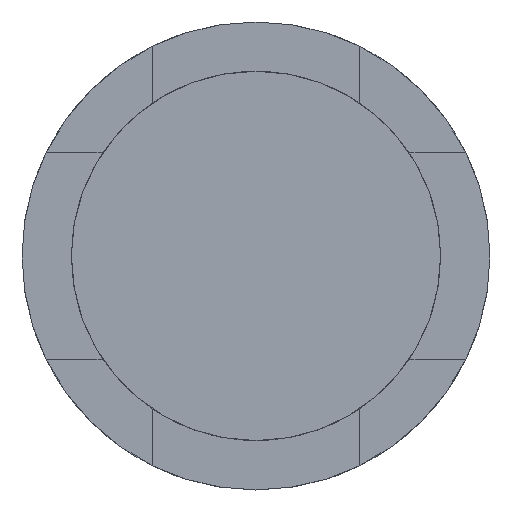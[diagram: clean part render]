
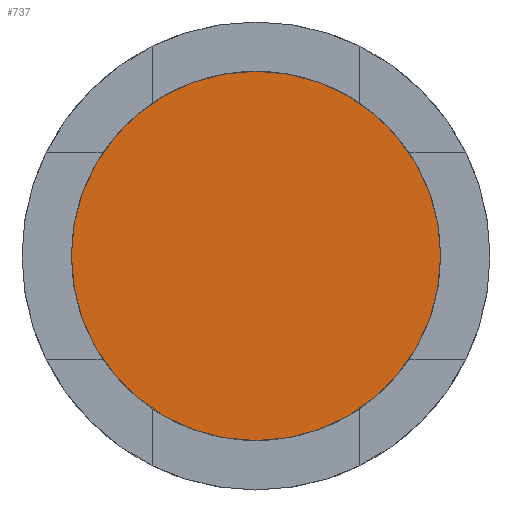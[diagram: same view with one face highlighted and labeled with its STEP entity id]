
A CAD part, top view. The second image highlights one B-rep face of the part: STEP entity #737.
In plain terms, the highlighted planar face has unit normal (0, 0, 1).
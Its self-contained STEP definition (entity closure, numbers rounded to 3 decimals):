
#18 = ORIENTED_EDGE ( 'NONE', *, *, #74, .T. ) ;
#74 = EDGE_CURVE ( 'NONE', #94, #429, #250, .T. ) ;
#81 = FACE_OUTER_BOUND ( 'NONE', #772, .T. ) ;
#94 = VERTEX_POINT ( 'NONE', #558 ) ;
#185 = DIRECTION ( 'NONE',  ( 1., 0., 0. ) ) ;
#191 = DIRECTION ( 'NONE',  ( 0., 0., 1. ) ) ;
#211 = AXIS2_PLACEMENT_3D ( 'NONE', #746, #191, #185 ) ;
#249 = CARTESIAN_POINT ( 'NONE',  ( 0., 0., 24. ) ) ;
#250 = CIRCLE ( 'NONE', #301, 58. ) ;
#281 = CARTESIAN_POINT ( 'NONE',  ( 0., 0., 24. ) ) ;
#301 = AXIS2_PLACEMENT_3D ( 'NONE', #249, #308, #637 ) ;
#308 = DIRECTION ( 'NONE',  ( 0., 0., 1. ) ) ;
#313 = EDGE_CURVE ( 'NONE', #429, #94, #408, .T. ) ;
#371 = AXIS2_PLACEMENT_3D ( 'NONE', #281, #779, #611 ) ;
#408 = CIRCLE ( 'NONE', #211, 58. ) ;
#429 = VERTEX_POINT ( 'NONE', #768 ) ;
#472 = ORIENTED_EDGE ( 'NONE', *, *, #313, .T. ) ;
#474 = PLANE ( 'NONE',  #371 ) ;
#558 = CARTESIAN_POINT ( 'NONE',  ( 58., 0., 24. ) ) ;
#611 = DIRECTION ( 'NONE',  ( 1., 0., 0. ) ) ;
#637 = DIRECTION ( 'NONE',  ( 1., 0., 0. ) ) ;
#737 = ADVANCED_FACE ( 'NONE', ( #81 ), #474, .T. ) ;
#746 = CARTESIAN_POINT ( 'NONE',  ( 0., 0., 24. ) ) ;
#768 = CARTESIAN_POINT ( 'NONE',  ( -58., 0., 24. ) ) ;
#772 = EDGE_LOOP ( 'NONE', ( #472, #18 ) ) ;
#779 = DIRECTION ( 'NONE',  ( 0., 0., 1. ) ) ;
